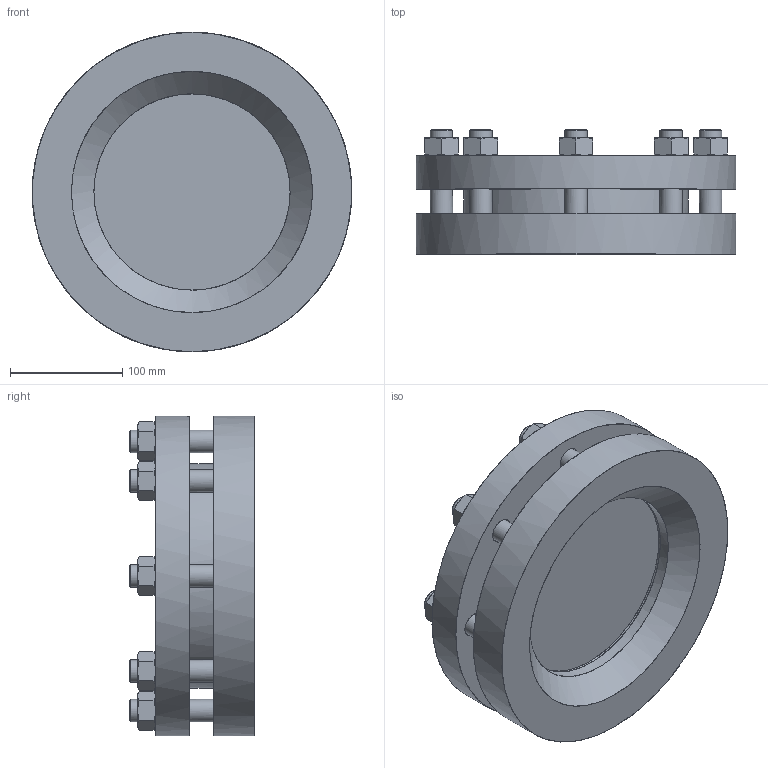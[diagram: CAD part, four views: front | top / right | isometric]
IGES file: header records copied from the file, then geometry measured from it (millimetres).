
Start section: C
Global section: file name: Armatur 28120  DN 150 PN16.igs; native system: By Siemens PLM Incorporated; preprocessor: XPlus GENERIC/IGES 18.0.17; author: Author; organization: Title; date: 20160808.073031; units: millimetre
Bounding box: 284.92 x 111 x 285 mm (x, y, z)
Surface area: 462616.8 mm2 (no closed solid volume)
Topology: 0 solids, 0 shells, 249 faces, 1363 edges, 1352 vertices
Faces by surface type: bspline 249
